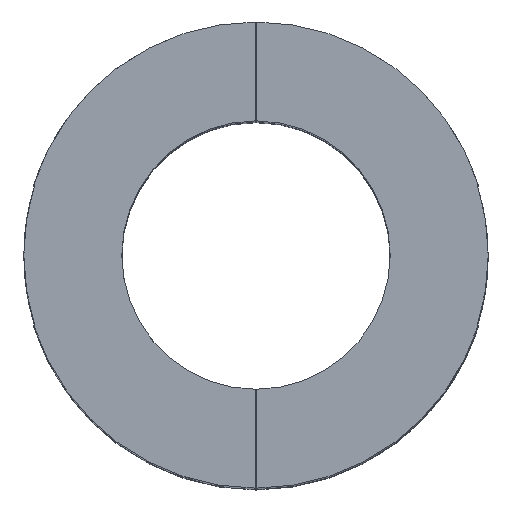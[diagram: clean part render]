
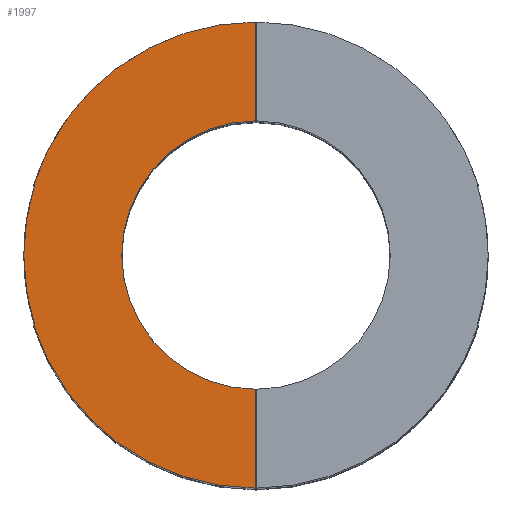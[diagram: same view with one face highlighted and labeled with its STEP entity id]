
A CAD part, top view. The second image highlights one B-rep face of the part: STEP entity #1997.
In plain terms, the highlighted planar face has unit normal (0, 0, 1).
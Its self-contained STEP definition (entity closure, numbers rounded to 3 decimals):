
#39=CIRCLE($,#2150,66.);
#40=CIRCLE($,#2154,38.);
#41=CIRCLE($,#2155,66.);
#42=CIRCLE($,#2156,65.75);
#128=FACE_OUTER_BOUND($,#243,.T.);
#243=EDGE_LOOP($,(#1314,#1315,#1316,#1317,#1318,#1319,#1320,#1321));
#465=LINE($,#3063,#613);
#471=LINE($,#3079,#619);
#475=LINE($,#3111,#623);
#476=LINE($,#3114,#624);
#613=VECTOR($,#2432,28.);
#619=VECTOR($,#2444,28.);
#623=VECTOR($,#2466,0.262);
#624=VECTOR($,#2469,0.262);
#764=VERTEX_POINT($,#3059);
#766=VERTEX_POINT($,#3062);
#770=VERTEX_POINT($,#3071);
#773=VERTEX_POINT($,#3077);
#776=VERTEX_POINT($,#3092);
#779=VERTEX_POINT($,#3108);
#780=VERTEX_POINT($,#3110);
#781=VERTEX_POINT($,#3112);
#969=EDGE_CURVE($,#766,#764,#465,.T.);
#977=EDGE_CURVE($,#770,#773,#471,.T.);
#981=EDGE_CURVE($,#770,#776,#39,.T.);
#986=EDGE_CURVE($,#773,#766,#40,.T.);
#987=EDGE_CURVE($,#779,#764,#41,.T.);
#988=EDGE_CURVE($,#779,#780,#475,.T.);
#989=EDGE_CURVE($,#780,#781,#42,.T.);
#990=EDGE_CURVE($,#781,#776,#476,.T.);
#1314=ORIENTED_EDGE($,*,*,#977,.T.);
#1315=ORIENTED_EDGE($,*,*,#986,.T.);
#1316=ORIENTED_EDGE($,*,*,#969,.T.);
#1317=ORIENTED_EDGE($,*,*,#987,.F.);
#1318=ORIENTED_EDGE($,*,*,#988,.T.);
#1319=ORIENTED_EDGE($,*,*,#989,.T.);
#1320=ORIENTED_EDGE($,*,*,#990,.T.);
#1321=ORIENTED_EDGE($,*,*,#981,.F.);
#1806=PLANE($,#2153);
#1997=ADVANCED_FACE($,(#128),#1806,.F.);
#2150=AXIS2_PLACEMENT_3D($,#3093,#2452,#2453);
#2153=AXIS2_PLACEMENT_3D($,#3106,#2460,#2461);
#2154=AXIS2_PLACEMENT_3D($,#3107,#2462,#2463);
#2155=AXIS2_PLACEMENT_3D($,#3109,#2464,#2465);
#2156=AXIS2_PLACEMENT_3D($,#3113,#2467,#2468);
#2432=DIRECTION($,(0.,1.,0.));
#2444=DIRECTION($,(0.,1.,0.));
#2452=DIRECTION('center_axis',(0.,0.,-1.));
#2453=DIRECTION('ref_axis',(-1.,0.,0.));
#2460=DIRECTION('center_axis',(0.,0.,-1.));
#2461=DIRECTION('ref_axis',(-1.,0.,0.));
#2462=DIRECTION('center_axis',(0.,0.,-1.));
#2463=DIRECTION('ref_axis',(-1.,0.,0.));
#2464=DIRECTION('center_axis',(0.,0.,-1.));
#2465=DIRECTION('ref_axis',(-1.,0.,0.));
#2466=DIRECTION($,(1.,0.,0.));
#2467=DIRECTION('center_axis',(0.,0.,1.));
#2468=DIRECTION('ref_axis',(0.953,-0.304,0.));
#2469=DIRECTION($,(-1.,0.,0.));
#3059=CARTESIAN_POINT('',(-0.25,66.,150.));
#3062=CARTESIAN_POINT('',(-0.25,37.999,150.));
#3063=CARTESIAN_POINT($,(-0.25,0.,150.));
#3071=CARTESIAN_POINT('',(-0.25,-66.,150.));
#3077=CARTESIAN_POINT('',(-0.25,-37.999,150.));
#3079=CARTESIAN_POINT($,(-0.25,0.,150.));
#3092=CARTESIAN_POINT('',(-62.897,-20.,150.));
#3093=CARTESIAN_POINT('Origin',(0.,0.,150.));
#3106=CARTESIAN_POINT('Origin',(0.,0.,150.));
#3107=CARTESIAN_POINT('Origin',(0.,0.,150.));
#3108=CARTESIAN_POINT('',(-62.897,20.,150.));
#3109=CARTESIAN_POINT('Origin',(0.,0.,150.));
#3110=CARTESIAN_POINT('',(-62.634,20.,150.));
#3111=CARTESIAN_POINT($,(-31.973,20.,150.));
#3112=CARTESIAN_POINT('',(-62.634,-20.,150.));
#3113=CARTESIAN_POINT('Origin',(0.,0.,150.));
#3114=CARTESIAN_POINT($,(-31.317,-20.,150.));
